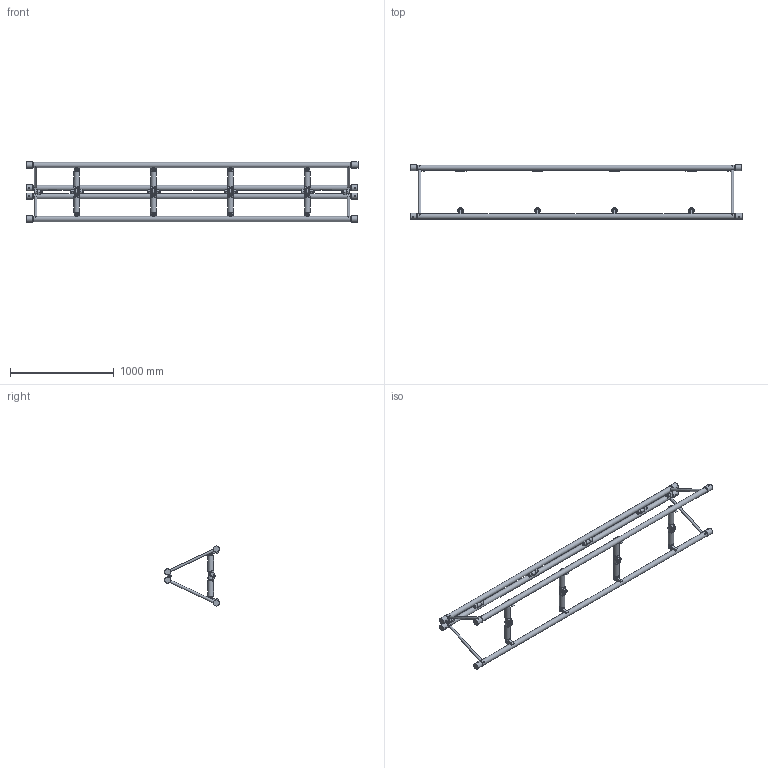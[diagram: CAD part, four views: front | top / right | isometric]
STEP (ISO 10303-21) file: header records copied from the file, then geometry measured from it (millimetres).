
FILE_DESCRIPTION(/* description */ (''),/* implementation_level */ '2;1');
FILE_NAME(/* name */ 'M:\Symbolen_NIEUW\STP\52-er truss\S52F\S52F-L320_111110090.stp',/* time_stamp */ '2017-11-10T14:52:44+01:00',/* author */ ('Kees'),/* organization */ (''),/* preprocessor_version */ 'ST-DEVELOPER v16.13',/* originating_system */ 'Autodesk Inventor 2018',/* authorisation */ '');
FILE_SCHEMA (('AUTOMOTIVE_DESIGN { 1 0 10303 214 3 1 1 }'));
Length unit declared in the file: millimetre
Products named in the file (1): 260008553
Bounding box: 3200 x 528.69 x 578.8 mm (x, y, z)
Volume: 31351771.3 mm3; surface area: 2875766.7 mm2
Topology: 15 solids, 15 shells, 1096 faces, 2804 edges, 1842 vertices
Faces by surface type: plane 722, cylinder 276, cone 98
Full cylindrical faces by diameter (mm): 10 x8, 12 x28, 12.5 x16, 12.8 x16, 13 x26, 17.4 x12, 24 x10, 25 x4, 50 x12, 54 x8, 58.8 x8
Entity records: 34312 total; most frequent: CARTESIAN_POINT 7537, DIRECTION 5318, ORIENTED_EDGE 5112, EDGE_CURVE 2556, AXIS2_PLACEMENT_3D 1945, VERTEX_POINT 1816, EDGE_LOOP 1560, LINE 1428
